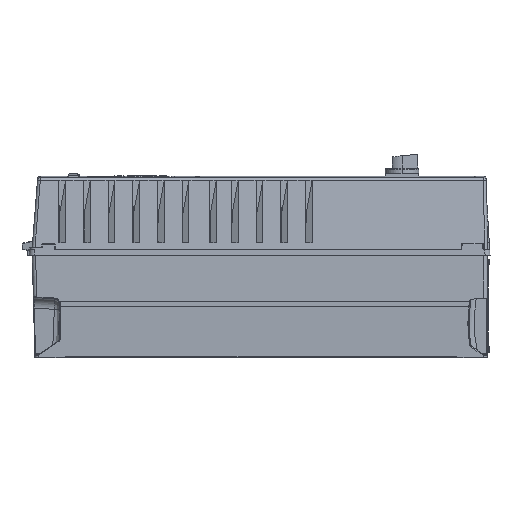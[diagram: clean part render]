
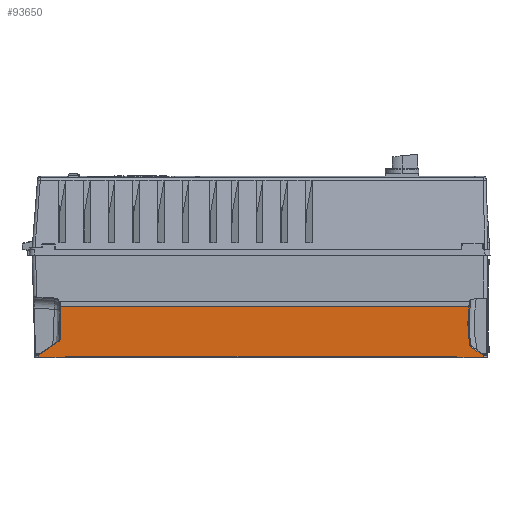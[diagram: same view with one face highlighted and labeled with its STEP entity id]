
A CAD part, left-side view. The second image highlights one B-rep face of the part: STEP entity #93650.
In plain terms, the highlighted planar face has unit normal (-1, 0, -0.024).
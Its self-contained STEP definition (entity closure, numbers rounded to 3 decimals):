
#2865=CARTESIAN_POINT('',(-119.001,314.035,
-149.968));
#2887=CARTESIAN_POINT('',(-119.074,314.114,
-146.974));
#2889=DIRECTION('',(0.024,-0.026,-0.999));
#2890=VECTOR('',#2889,2.996);
#2891=CARTESIAN_POINT('',(-119.074,314.114,
-146.974));
#2892=LINE('',#2891,#2890);
#3137=CARTESIAN_POINT('',(-120.75,-296.785,
-78.395));
#3139=DIRECTION('',(0.,1.,0.));
#3140=VECTOR('',#3139,579.587);
#3141=CARTESIAN_POINT('',(-120.75,-296.785,
-78.395));
#3142=LINE('',#3141,#3140);
#3507=DIRECTION('',(0.024,0.,-1.));
#3508=VECTOR('',#3507,2.993);
#3509=CARTESIAN_POINT('',(-119.074,-318.,
-146.976));
#3510=LINE('',#3509,#3508);
#3511=DIRECTION('',(0.,1.,0.));
#3512=VECTOR('',#3511,36.727);
#3513=CARTESIAN_POINT('',(-119.001,-318.,
-149.968));
#3514=LINE('',#3513,#3512);
#3515=CARTESIAN_POINT('',(-119.001,-281.273,
-149.968));
#3516=CARTESIAN_POINT('',(-119.001,-281.041,
-149.968));
#3517=CARTESIAN_POINT('',(-119.002,-280.587,
-149.919));
#3518=CARTESIAN_POINT('',(-119.005,-280.154,
-149.779));
#3519=CARTESIAN_POINT('',(-119.008,-279.943,
-149.684));
#3521=CARTESIAN_POINT('',(-119.008,-279.943,
-149.684));
#3522=CARTESIAN_POINT('',(-119.011,-279.635,
-149.546));
#3523=CARTESIAN_POINT('',(-119.016,-279.002,
-149.34));
#3524=CARTESIAN_POINT('',(-119.018,-278.339,
-149.268));
#3525=CARTESIAN_POINT('',(-119.018,-278.,
-149.268));
#3527=DIRECTION('',(0.,1.,0.));
#3528=VECTOR('',#3527,552.033);
#3529=CARTESIAN_POINT('',(-119.018,-278.,
-149.268));
#3530=LINE('',#3529,#3528);
#3531=CARTESIAN_POINT('',(-119.018,274.033,
-149.268));
#3532=CARTESIAN_POINT('',(-119.018,274.371,
-149.268));
#3533=CARTESIAN_POINT('',(-119.016,275.032,
-149.34));
#3534=CARTESIAN_POINT('',(-119.011,275.666,
-149.545));
#3535=CARTESIAN_POINT('',(-119.008,275.976,
-149.684));
#3537=CARTESIAN_POINT('',(-119.008,275.976,
-149.684));
#3538=CARTESIAN_POINT('',(-119.005,276.187,
-149.779));
#3539=CARTESIAN_POINT('',(-119.002,276.621,
-149.919));
#3540=CARTESIAN_POINT('',(-119.001,277.074,
-149.968));
#3541=CARTESIAN_POINT('',(-119.001,277.305,
-149.968));
#3543=DIRECTION('',(0.,1.,0.));
#3544=VECTOR('',#3543,36.73);
#3545=CARTESIAN_POINT('',(-119.001,277.305,
-149.968));
#3546=LINE('',#3545,#3544);
#3547=CARTESIAN_POINT('',(-119.074,314.114,
-146.974));
#3548=CARTESIAN_POINT('',(-119.074,313.933,
-146.963));
#3549=CARTESIAN_POINT('',(-119.075,313.575,
-146.916));
#3550=CARTESIAN_POINT('',(-119.079,313.035,
-146.767));
#3551=CARTESIAN_POINT('',(-119.084,312.525,
-146.545));
#3552=CARTESIAN_POINT('',(-119.089,312.221,
-146.361));
#3553=CARTESIAN_POINT('',(-119.091,312.077,
-146.259));
#3555=DIRECTION('',(-0.014,-0.819,0.574));
#3556=VECTOR('',#3555,33.218);
#3557=CARTESIAN_POINT('',(-119.091,312.077,
-146.259));
#3558=LINE('',#3557,#3556);
#3559=CARTESIAN_POINT('',(-119.557,284.869,
-127.208));
#3560=CARTESIAN_POINT('',(-119.562,284.578,
-127.005));
#3561=CARTESIAN_POINT('',(-119.574,284.082,
-126.533));
#3562=CARTESIAN_POINT('',(-119.596,283.557,
-125.608));
#3563=CARTESIAN_POINT('',(-119.612,283.407,
-124.938));
#3564=CARTESIAN_POINT('',(-119.621,283.382,
-124.581));
#3566=CARTESIAN_POINT('',(-119.621,283.382,
-124.581));
#3567=CARTESIAN_POINT('',(-119.809,282.842,
-116.89));
#3568=CARTESIAN_POINT('',(-120.185,282.206,
-101.501));
#3569=CARTESIAN_POINT('',(-120.562,282.455,
-86.099));
#3570=CARTESIAN_POINT('',(-120.75,282.802,
-78.395));
#3572=CARTESIAN_POINT('',(-120.75,-296.785,
-78.395));
#3573=CARTESIAN_POINT('',(-120.603,-296.118,
-84.42));
#3574=CARTESIAN_POINT('',(-120.308,-295.333,
-96.462));
#3575=CARTESIAN_POINT('',(-119.867,-295.777,
-114.529));
#3576=CARTESIAN_POINT('',(-119.574,-297.153,
-126.502));
#3577=CARTESIAN_POINT('',(-119.428,-298.114,
-132.477));
#3579=CARTESIAN_POINT('',(-119.428,-298.114,
-132.477));
#3580=CARTESIAN_POINT('',(-119.421,-298.165,
-132.793));
#3581=CARTESIAN_POINT('',(-119.406,-298.345,
-133.385));
#3582=CARTESIAN_POINT('',(-119.386,-298.851,
-134.192));
#3583=CARTESIAN_POINT('',(-119.376,-299.305,
-134.611));
#3584=CARTESIAN_POINT('',(-119.372,-299.566,
-134.794));
#3586=DIRECTION('',(0.014,-0.819,-0.574));
#3587=VECTOR('',#3586,19.991);
#3588=CARTESIAN_POINT('',(-119.372,-299.566,
-134.794));
#3589=LINE('',#3588,#3587);
#3590=CARTESIAN_POINT('',(-119.091,-315.94,
-146.259));
#3591=CARTESIAN_POINT('',(-119.089,-316.085,
-146.361));
#3592=CARTESIAN_POINT('',(-119.084,-316.39,
-146.546));
#3593=CARTESIAN_POINT('',(-119.079,-316.905,
-146.77));
#3594=CARTESIAN_POINT('',(-119.075,-317.452,
-146.919));
#3595=CARTESIAN_POINT('',(-119.074,-317.816,
-146.965));
#3596=CARTESIAN_POINT('',(-119.074,-318.,
-146.976));
#76032=VERTEX_POINT('',#3137);
#76034=VERTEX_POINT('',#3577);
#76036=VERTEX_POINT('',#3584);
#76039=CARTESIAN_POINT('',(-119.091,-315.94,
-146.259));
#76040=VERTEX_POINT('',#76039);
#76042=VERTEX_POINT('',#3596);
#76158=VERTEX_POINT('',#2887);
#76160=VERTEX_POINT('',#3553);
#76163=CARTESIAN_POINT('',(-119.557,284.869,
-127.208));
#76164=VERTEX_POINT('',#76163);
#76166=VERTEX_POINT('',#3564);
#76168=VERTEX_POINT('',#3570);
#78663=CARTESIAN_POINT('',(-119.001,-318.,
-149.968));
#78664=VERTEX_POINT('',#78663);
#79567=VERTEX_POINT('',#2865);
#79570=CARTESIAN_POINT('',(-119.001,277.305,
-149.968));
#79571=VERTEX_POINT('',#79570);
#79573=VERTEX_POINT('',#3537);
#79575=VERTEX_POINT('',#3531);
#79578=CARTESIAN_POINT('',(-119.018,-278.,
-149.268));
#79579=VERTEX_POINT('',#79578);
#79581=VERTEX_POINT('',#3521);
#79583=VERTEX_POINT('',#3515);
#93613=CARTESIAN_POINT('',(-119.,-323.,-150.));
#93614=DIRECTION('',(-1.,0.,-0.024));
#93615=DIRECTION('',(-0.024,0.,1.));
#93616=AXIS2_PLACEMENT_3D('',#93613,#93614,#93615);
#93617=PLANE('',#93616);
#93618=ORIENTED_EDGE('',*,*,#91678,.T.);
#93620=ORIENTED_EDGE('',*,*,#93619,.T.);
#93622=ORIENTED_EDGE('',*,*,#93621,.T.);
#93624=ORIENTED_EDGE('',*,*,#93623,.T.);
#93626=ORIENTED_EDGE('',*,*,#93625,.T.);
#93628=ORIENTED_EDGE('',*,*,#93627,.T.);
#93629=ORIENTED_EDGE('',*,*,#92530,.T.);
#93630=ORIENTED_EDGE('',*,*,#92545,.T.);
#93631=ORIENTED_EDGE('',*,*,#92607,.F.);
#93633=ORIENTED_EDGE('',*,*,#93632,.T.);
#93635=ORIENTED_EDGE('',*,*,#93634,.T.);
#93637=ORIENTED_EDGE('',*,*,#93636,.T.);
#93639=ORIENTED_EDGE('',*,*,#93638,.T.);
#93640=ORIENTED_EDGE('',*,*,#93087,.F.);
#93642=ORIENTED_EDGE('',*,*,#93641,.T.);
#93644=ORIENTED_EDGE('',*,*,#93643,.T.);
#93646=ORIENTED_EDGE('',*,*,#93645,.T.);
#93647=ORIENTED_EDGE('',*,*,#93606,.T.);
#93648=EDGE_LOOP('',(#93618,#93620,#93622,#93624,#93626,#93628,#93629,#93630,
#93631,#93633,#93635,#93637,#93639,#93640,#93642,#93644,#93646,#93647));
#93649=FACE_OUTER_BOUND('',#93648,.F.);
#3520=B_SPLINE_CURVE_WITH_KNOTS('',3,(#3515,#3516,#3517,#3518,#3519),
.UNSPECIFIED.,.F.,.F.,(4,1,4),(0.,0.5,1.),.UNSPECIFIED.);
#3526=B_SPLINE_CURVE_WITH_KNOTS('',3,(#3521,#3522,#3523,#3524,#3525),
.UNSPECIFIED.,.F.,.F.,(4,1,4),(0.,0.5,1.),.UNSPECIFIED.);
#3536=B_SPLINE_CURVE_WITH_KNOTS('',3,(#3531,#3532,#3533,#3534,#3535),
.UNSPECIFIED.,.F.,.F.,(4,1,4),(0.,0.5,1.),.UNSPECIFIED.);
#3542=B_SPLINE_CURVE_WITH_KNOTS('',3,(#3537,#3538,#3539,#3540,#3541),
.UNSPECIFIED.,.F.,.F.,(4,1,4),(0.,0.5,1.),.UNSPECIFIED.);
#3554=B_SPLINE_CURVE_WITH_KNOTS('',3,(#3547,#3548,#3549,#3550,#3551,#3552,
#3553),.UNSPECIFIED.,.F.,.F.,(4,1,1,1,4),(0.,0.25,0.5,0.75,1.),
.UNSPECIFIED.);
#3565=B_SPLINE_CURVE_WITH_KNOTS('',3,(#3559,#3560,#3561,#3562,#3563,#3564),
.UNSPECIFIED.,.F.,.F.,(4,1,1,4),(0.,0.333,0.667,1.),
.UNSPECIFIED.);
#3571=B_SPLINE_CURVE_WITH_KNOTS('',3,(#3566,#3567,#3568,#3569,#3570),
.UNSPECIFIED.,.F.,.F.,(4,1,4),(0.,0.5,1.),.UNSPECIFIED.);
#3578=B_SPLINE_CURVE_WITH_KNOTS('',3,(#3572,#3573,#3574,#3575,#3576,#3577),
.UNSPECIFIED.,.F.,.F.,(4,1,1,4),(0.,0.333,0.667,1.),
.UNSPECIFIED.);
#3585=B_SPLINE_CURVE_WITH_KNOTS('',3,(#3579,#3580,#3581,#3582,#3583,#3584),
.UNSPECIFIED.,.F.,.F.,(4,1,1,4),(0.,0.333,0.667,1.),
.UNSPECIFIED.);
#3597=B_SPLINE_CURVE_WITH_KNOTS('',3,(#3590,#3591,#3592,#3593,#3594,#3595,
#3596),.UNSPECIFIED.,.F.,.F.,(4,1,1,1,4),(0.,0.25,0.5,0.75,1.),
.UNSPECIFIED.);
#91678=EDGE_CURVE('',#76042,#78664,#3510,.T.);
#92530=EDGE_CURVE('',#79573,#79571,#3542,.T.);
#92545=EDGE_CURVE('',#79571,#79567,#3546,.T.);
#92607=EDGE_CURVE('',#76158,#79567,#2892,.T.);
#93087=EDGE_CURVE('',#76032,#76168,#3142,.T.);
#93606=EDGE_CURVE('',#76040,#76042,#3597,.T.);
#93619=EDGE_CURVE('',#78664,#79583,#3514,.T.);
#93621=EDGE_CURVE('',#79583,#79581,#3520,.T.);
#93623=EDGE_CURVE('',#79581,#79579,#3526,.T.);
#93625=EDGE_CURVE('',#79579,#79575,#3530,.T.);
#93627=EDGE_CURVE('',#79575,#79573,#3536,.T.);
#93632=EDGE_CURVE('',#76158,#76160,#3554,.T.);
#93634=EDGE_CURVE('',#76160,#76164,#3558,.T.);
#93636=EDGE_CURVE('',#76164,#76166,#3565,.T.);
#93638=EDGE_CURVE('',#76166,#76168,#3571,.T.);
#93641=EDGE_CURVE('',#76032,#76034,#3578,.T.);
#93643=EDGE_CURVE('',#76034,#76036,#3585,.T.);
#93645=EDGE_CURVE('',#76036,#76040,#3589,.T.);
#93650=ADVANCED_FACE('',(#93649),#93617,.T.);
